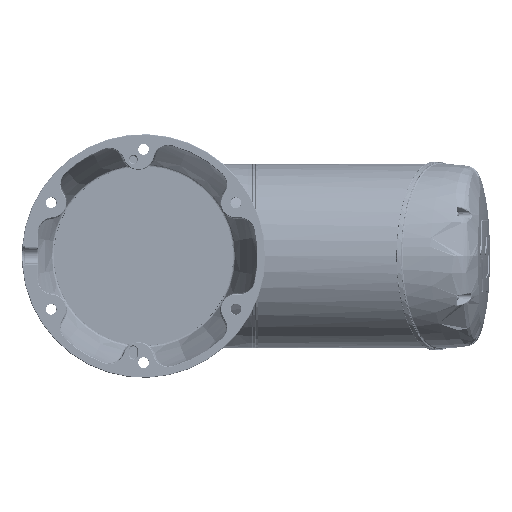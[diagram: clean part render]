
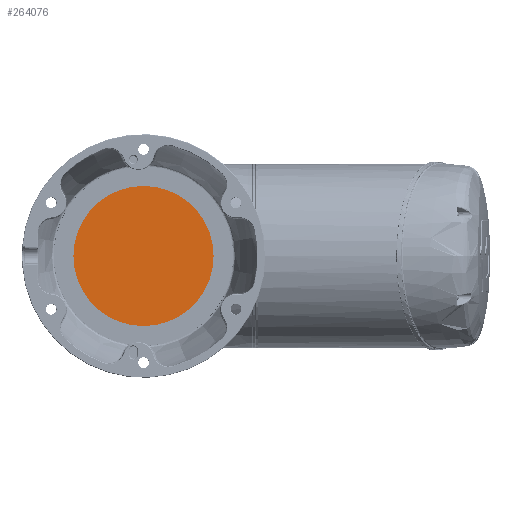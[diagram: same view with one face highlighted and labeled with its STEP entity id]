
A CAD part, front view. The second image highlights one B-rep face of the part: STEP entity #264076.
In plain terms, the highlighted planar face has unit normal (0, -1, 0).
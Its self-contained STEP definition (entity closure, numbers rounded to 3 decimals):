
#2905 = CIRCLE ( 'NONE', #464376, 69.012 ) ;
#18583 = FACE_OUTER_BOUND ( 'NONE', #475854, .T. ) ;
#37270 = CARTESIAN_POINT ( 'NONE',  ( 0., 0., 0. ) ) ;
#38944 = DIRECTION ( 'NONE',  ( 0., -1., 0. ) ) ;
#40651 = CARTESIAN_POINT ( 'NONE',  ( 0., 0., -69.012 ) ) ;
#46717 = EDGE_CURVE ( 'NONE', #495881, #441708, #233856, .T. ) ;
#67751 = EDGE_CURVE ( 'NONE', #441708, #495881, #2905, .T. ) ;
#68814 = CARTESIAN_POINT ( 'NONE',  ( 0., 0., 0. ) ) ;
#114257 = DIRECTION ( 'NONE',  ( 0., 0., 1. ) ) ;
#140853 = PLANE ( 'NONE',  #171610 ) ;
#171610 = AXIS2_PLACEMENT_3D ( 'NONE', #68814, #262192, #416153 ) ;
#175584 = ORIENTED_EDGE ( 'NONE', *, *, #67751, .T. ) ;
#190503 = DIRECTION ( 'NONE',  ( 0., -1., 0. ) ) ;
#226472 = CARTESIAN_POINT ( 'NONE',  ( 0., 0., 0. ) ) ;
#233856 = CIRCLE ( 'NONE', #423683, 69.012 ) ;
#262192 = DIRECTION ( 'NONE',  ( 0., 1., 0. ) ) ;
#264076 = ADVANCED_FACE ( 'NONE', ( #18583 ), #140853, .F. ) ;
#369229 = CARTESIAN_POINT ( 'NONE',  ( 0., 0., 69.012 ) ) ;
#416153 = DIRECTION ( 'NONE',  ( 0., 0., 1. ) ) ;
#423683 = AXIS2_PLACEMENT_3D ( 'NONE', #37270, #38944, #114257 ) ;
#433154 = DIRECTION ( 'NONE',  ( 0., 0., 1. ) ) ;
#433563 = ORIENTED_EDGE ( 'NONE', *, *, #46717, .T. ) ;
#441708 = VERTEX_POINT ( 'NONE', #40651 ) ;
#464376 = AXIS2_PLACEMENT_3D ( 'NONE', #226472, #190503, #433154 ) ;
#475854 = EDGE_LOOP ( 'NONE', ( #433563, #175584 ) ) ;
#495881 = VERTEX_POINT ( 'NONE', #369229 ) ;
